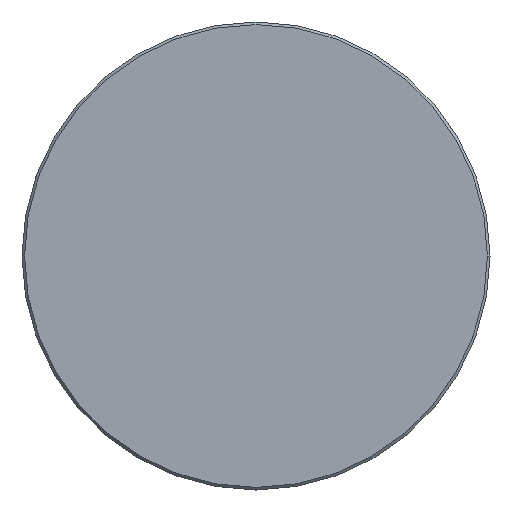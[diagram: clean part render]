
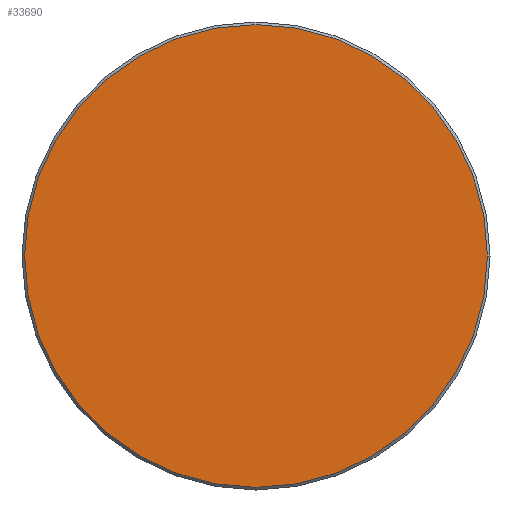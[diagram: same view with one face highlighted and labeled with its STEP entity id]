
A CAD part, left-side view. The second image highlights one B-rep face of the part: STEP entity #33690.
In plain terms, the highlighted planar face has unit normal (-1, 0, 0).
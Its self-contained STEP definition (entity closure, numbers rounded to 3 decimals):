
#173=CARTESIAN_POINT('',(-71.316,0.,0.));
#174=DIRECTION('',(-1.,0.,0.));
#175=DIRECTION('',(0.,-1.,0.));
#176=AXIS2_PLACEMENT_3D('',#173,#174,#175);
#178=CARTESIAN_POINT('',(-71.316,0.,0.));
#179=DIRECTION('',(-1.,0.,0.));
#180=DIRECTION('',(0.,1.,0.));
#181=AXIS2_PLACEMENT_3D('',#178,#179,#180);
#29141=CARTESIAN_POINT('',(-71.316,-44.5,0.));
#29142=CARTESIAN_POINT('',(-71.316,44.5,0.));
#29143=VERTEX_POINT('',#29141);
#29144=VERTEX_POINT('',#29142);
#33680=CARTESIAN_POINT('',(-71.316,0.,0.));
#33681=DIRECTION('',(1.,0.,0.));
#33682=DIRECTION('',(0.,-1.,0.));
#33683=AXIS2_PLACEMENT_3D('',#33680,#33681,#33682);
#33684=PLANE('',#33683);
#33686=ORIENTED_EDGE('',*,*,#33685,.F.);
#33687=ORIENTED_EDGE('',*,*,#33670,.F.);
#33688=EDGE_LOOP('',(#33686,#33687));
#33689=FACE_OUTER_BOUND('',#33688,.F.);
#177=CIRCLE('',#176,44.5);
#182=CIRCLE('',#181,44.5);
#33670=EDGE_CURVE('',#29144,#29143,#182,.T.);
#33685=EDGE_CURVE('',#29143,#29144,#177,.T.);
#33690=ADVANCED_FACE('',(#33689),#33684,.F.);
